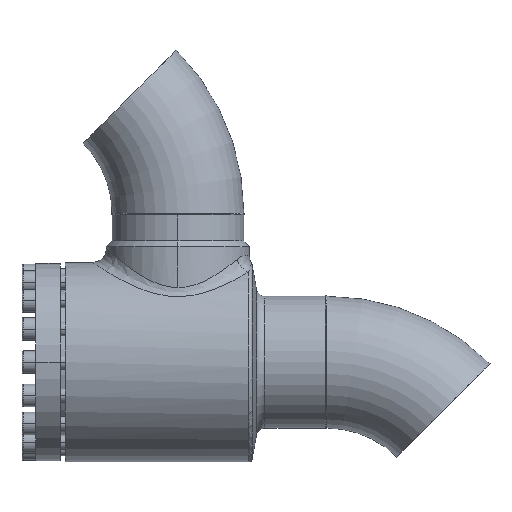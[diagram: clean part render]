
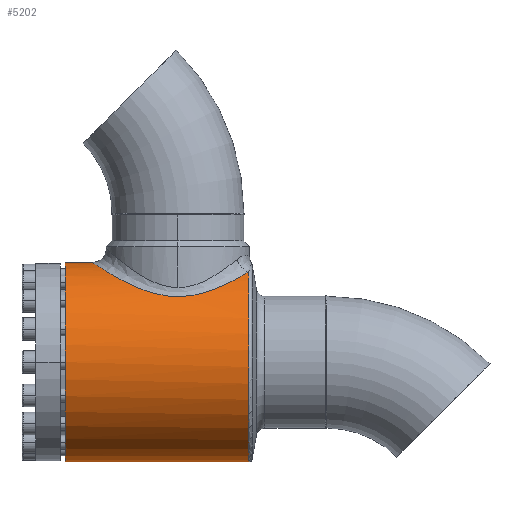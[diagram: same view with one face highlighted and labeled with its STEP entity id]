
A CAD part, left-side view. The second image highlights one B-rep face of the part: STEP entity #5202.
In plain terms, the highlighted cylindrical face has radius 57.5 mm (diameter 115 mm), a partial arc.
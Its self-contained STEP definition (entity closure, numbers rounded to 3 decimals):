
#64 = LINE ( 'NONE', #65, #66 ) ;
#65 = CARTESIAN_POINT ( 'NONE',  ( 0., -111., 57.5 ) ) ;
#66 = VECTOR ( 'NONE', #70, 1000. ) ;
#70 = DIRECTION ( 'NONE',  ( 0., 1., 0. ) ) ;
#442 = CARTESIAN_POINT ( 'NONE',  ( 0., -15.7, 57.5 ) ) ;
#767 = B_SPLINE_CURVE_WITH_KNOTS ( 'NONE', 3,
 ( #768, #769, #770, #771, #772, #773, #774, #775, #776, #777, #778, #779, #780, #781, #782, #783, #784, #785, #786, #787, #788, #789, #790, #791, #793, #794, #795, #796, #797, #798, #799, #800, #801, #802, #803, #804, #805, #806, #807, #808, #809, #810, #811, #812, #813, #814, #815, #816, #817, #818, #819, #820, #821, #822, #823, #824, #828, #829, #830, #831, #832, #833 ),
 .UNSPECIFIED., .F., .F.,
 ( 4, 2, 2, 2, 2, 2, 2, 2, 2, 2, 2, 2, 2, 2, 2, 2, 2, 2, 2, 2, 2, 2, 2, 2, 2, 2, 2, 2, 2, 2, 4 ),
 ( 0., 0.008, 0.016, 0.017, 0.019, 0.023, 0.031, 0.035, 0.039, 0.047, 0.049, 0.05, 0.054, 0.058, 0.06, 0.062, 0.07, 0.074, 0.078, 0.085, 0.089, 0.091, 0.093, 0.101, 0.105, 0.107, 0.109, 0.116, 0.118, 0.12, 0.124 ),
 .UNSPECIFIED. ) ;
#768 = CARTESIAN_POINT ( 'NONE',  ( -24.174, -105.892, 52.171 ) ) ;
#769 = CARTESIAN_POINT ( 'NONE',  ( -26.132, -104.39, 51.264 ) ) ;
#770 = CARTESIAN_POINT ( 'NONE',  ( -27.915, -102.76, 50.305 ) ) ;
#771 = CARTESIAN_POINT ( 'NONE',  ( -31.195, -99.268, 48.34 ) ) ;
#772 = CARTESIAN_POINT ( 'NONE',  ( -32.691, -97.405, 47.333 ) ) ;
#773 = CARTESIAN_POINT ( 'NONE',  ( -34.397, -94.927, 46.079 ) ) ;
#774 = CARTESIAN_POINT ( 'NONE',  ( -34.73, -94.424, 45.829 ) ) ;
#775 = CARTESIAN_POINT ( 'NONE',  ( -35.379, -93.402, 45.329 ) ) ;
#776 = CARTESIAN_POINT ( 'NONE',  ( -35.695, -92.884, 45.08 ) ) ;
#777 = CARTESIAN_POINT ( 'NONE',  ( -36.613, -91.317, 44.344 ) ) ;
#778 = CARTESIAN_POINT ( 'NONE',  ( -37.186, -90.253, 43.863 ) ) ;
#779 = CARTESIAN_POINT ( 'NONE',  ( -38.793, -86.998, 42.466 ) ) ;
#780 = CARTESIAN_POINT ( 'NONE',  ( -39.716, -84.747, 41.594 ) ) ;
#781 = CARTESIAN_POINT ( 'NONE',  ( -40.882, -81.225, 40.437 ) ) ;
#782 = CARTESIAN_POINT ( 'NONE',  ( -41.234, -80.027, 40.077 ) ) ;
#783 = CARTESIAN_POINT ( 'NONE',  ( -41.862, -77.576, 39.421 ) ) ;
#784 = CARTESIAN_POINT ( 'NONE',  ( -42.138, -76.319, 39.125 ) ) ;
#785 = CARTESIAN_POINT ( 'NONE',  ( -42.831, -72.529, 38.37 ) ) ;
#786 = CARTESIAN_POINT ( 'NONE',  ( -43.12, -69.961, 38.038 ) ) ;
#787 = CARTESIAN_POINT ( 'NONE',  ( -43.257, -66.692, 37.883 ) ) ;
#788 = CARTESIAN_POINT ( 'NONE',  ( -43.273, -66.034, 37.864 ) ) ;
#789 = CARTESIAN_POINT ( 'NONE',  ( -43.282, -64.718, 37.854 ) ) ;
#790 = CARTESIAN_POINT ( 'NONE',  ( -43.275, -64.063, 37.862 ) ) ;
#791 = CARTESIAN_POINT ( 'NONE',  ( -43.219, -62.103, 37.926 ) ) ;
#793 = CARTESIAN_POINT ( 'NONE',  ( -43.137, -60.806, 38.02 ) ) ;
#794 = CARTESIAN_POINT ( 'NONE',  ( -42.884, -58.229, 38.305 ) ) ;
#795 = CARTESIAN_POINT ( 'NONE',  ( -42.713, -56.95, 38.496 ) ) ;
#796 = CARTESIAN_POINT ( 'NONE',  ( -42.391, -55.043, 38.85 ) ) ;
#797 = CARTESIAN_POINT ( 'NONE',  ( -42.272, -54.408, 38.979 ) ) ;
#798 = CARTESIAN_POINT ( 'NONE',  ( -42.014, -53.15, 39.257 ) ) ;
#799 = CARTESIAN_POINT ( 'NONE',  ( -41.875, -52.528, 39.406 ) ) ;
#800 = CARTESIAN_POINT ( 'NONE',  ( -41.13, -49.446, 40.191 ) ) ;
#801 = CARTESIAN_POINT ( 'NONE',  ( -40.378, -47.077, 40.957 ) ) ;
#802 = CARTESIAN_POINT ( 'NONE',  ( -39.022, -43.642, 42.237 ) ) ;
#803 = CARTESIAN_POINT ( 'NONE',  ( -38.532, -42.517, 42.685 ) ) ;
#804 = CARTESIAN_POINT ( 'NONE',  ( -37.473, -40.304, 43.618 ) ) ;
#805 = CARTESIAN_POINT ( 'NONE',  ( -36.908, -39.223, 44.098 ) ) ;
#806 = CARTESIAN_POINT ( 'NONE',  ( -35.115, -36.073, 45.559 ) ) ;
#807 = CARTESIAN_POINT ( 'NONE',  ( -33.785, -34.085, 46.562 ) ) ;
#808 = CARTESIAN_POINT ( 'NONE',  ( -31.574, -31.259, 48.064 ) ) ;
#809 = CARTESIAN_POINT ( 'NONE',  ( -30.801, -30.343, 48.564 ) ) ;
#810 = CARTESIAN_POINT ( 'NONE',  ( -29.582, -29.009, 49.309 ) ) ;
#811 = CARTESIAN_POINT ( 'NONE',  ( -29.166, -28.57, 49.557 ) ) ;
#812 = CARTESIAN_POINT ( 'NONE',  ( -28.313, -27.708, 50.049 ) ) ;
#813 = CARTESIAN_POINT ( 'NONE',  ( -27.875, -27.282, 50.294 ) ) ;
#814 = CARTESIAN_POINT ( 'NONE',  ( -25.646, -25.201, 51.504 ) ) ;
#815 = CARTESIAN_POINT ( 'NONE',  ( -23.737, -23.688, 52.419 ) ) ;
#816 = CARTESIAN_POINT ( 'NONE',  ( -20.66, -21.659, 53.671 ) ) ;
#817 = CARTESIAN_POINT ( 'NONE',  ( -19.599, -21.023, 54.069 ) ) ;
#818 = CARTESIAN_POINT ( 'NONE',  ( -17.948, -20.134, 54.63 ) ) ;
#819 = CARTESIAN_POINT ( 'NONE',  ( -17.388, -19.848, 54.811 ) ) ;
#820 = CARTESIAN_POINT ( 'NONE',  ( -16.247, -19.3, 55.16 ) ) ;
#821 = CARTESIAN_POINT ( 'NONE',  ( -15.665, -19.037, 55.328 ) ) ;
#822 = CARTESIAN_POINT ( 'NONE',  ( -12.734, -17.796, 56.125 ) ) ;
#823 = CARTESIAN_POINT ( 'NONE',  ( -10.302, -17.028, 56.627 ) ) ;
#824 = CARTESIAN_POINT ( 'NONE',  ( -7.142, -16.371, 57.058 ) ) ;
#828 = CARTESIAN_POINT ( 'NONE',  ( -6.505, -16.254, 57.135 ) ) ;
#829 = CARTESIAN_POINT ( 'NONE',  ( -5.216, -16.054, 57.267 ) ) ;
#830 = CARTESIAN_POINT ( 'NONE',  ( -4.563, -15.969, 57.322 ) ) ;
#831 = CARTESIAN_POINT ( 'NONE',  ( -2.602, -15.766, 57.456 ) ) ;
#832 = CARTESIAN_POINT ( 'NONE',  ( -1.298, -15.7, 57.5 ) ) ;
#833 = CARTESIAN_POINT ( 'NONE',  ( 0., -15.7, 57.5 ) ) ;
#948 = CARTESIAN_POINT ( 'NONE',  ( 0., 0., 57.5 ) ) ;
#1820 = ORIENTED_EDGE ( 'NONE', *, *, #10167, .F. ) ;
#2145 = ORIENTED_EDGE ( 'NONE', *, *, #6253, .T. ) ;
#2622 = EDGE_CURVE ( 'NONE', #3458, #11046, #767, .T. ) ;
#2974 = ORIENTED_EDGE ( 'NONE', *, *, #2622, .T. ) ;
#3458 = VERTEX_POINT ( 'NONE', #10093 ) ;
#3663 = EDGE_CURVE ( 'NONE', #9745, #3458, #10401, .T. ) ;
#4011 = ORIENTED_EDGE ( 'NONE', *, *, #3663, .T. ) ;
#4490 = ORIENTED_EDGE ( 'NONE', *, *, #8785, .F. ) ;
#4973 = EDGE_LOOP ( 'NONE', ( #4490, #4011, #2974, #2145, #1820 ) ) ;
#5202 = ADVANCED_FACE ( 'NONE', ( #12295 ), #12296, .T. ) ;
#6253 = EDGE_CURVE ( 'NONE', #11046, #7247, #64, .T. ) ;
#7247 = VERTEX_POINT ( 'NONE', #948 ) ;
#8576 = VERTEX_POINT ( 'NONE', #10799 ) ;
#8785 = EDGE_CURVE ( 'NONE', #9745, #8576, #10939, .T. ) ;
#9745 = VERTEX_POINT ( 'NONE', #12443 ) ;
#10093 = CARTESIAN_POINT ( 'NONE',  ( -24.174, -105.892, 52.171 ) ) ;
#10167 = EDGE_CURVE ( 'NONE', #8576, #7247, #15102, .T. ) ;
#10401 = CIRCLE ( 'NONE', #10402, 57.5 ) ;
#10402 = AXIS2_PLACEMENT_3D ( 'NONE', #10403, #10404, #10405 ) ;
#10403 = CARTESIAN_POINT ( 'NONE',  ( 0., -105.892, 0. ) ) ;
#10404 = DIRECTION ( 'NONE',  ( 0., 1., 0. ) ) ;
#10405 = DIRECTION ( 'NONE',  ( 0., 0., -1. ) ) ;
#10799 = CARTESIAN_POINT ( 'NONE',  ( 0., 0., -57.5 ) ) ;
#10939 = LINE ( 'NONE', #10940, #10941 ) ;
#10940 = CARTESIAN_POINT ( 'NONE',  ( 0., -111., -57.5 ) ) ;
#10941 = VECTOR ( 'NONE', #10942, 1000. ) ;
#10942 = DIRECTION ( 'NONE',  ( 0., 1., 0. ) ) ;
#11046 = VERTEX_POINT ( 'NONE', #442 ) ;
#12295 = FACE_OUTER_BOUND ( 'NONE', #4973, .T. ) ;
#12296 = CYLINDRICAL_SURFACE ( 'NONE', #12297, 57.5 ) ;
#12297 = AXIS2_PLACEMENT_3D ( 'NONE', #12298, #12299, #12300 ) ;
#12298 = CARTESIAN_POINT ( 'NONE',  ( 0., -111., 0. ) ) ;
#12299 = DIRECTION ( 'NONE',  ( 0., 1., 0. ) ) ;
#12300 = DIRECTION ( 'NONE',  ( 0., 0., 1. ) ) ;
#12443 = CARTESIAN_POINT ( 'NONE',  ( 0., -105.892, -57.5 ) ) ;
#15102 = CIRCLE ( 'NONE', #15103, 57.5 ) ;
#15103 = AXIS2_PLACEMENT_3D ( 'NONE', #15104, #15105, #15106 ) ;
#15104 = CARTESIAN_POINT ( 'NONE',  ( 0., 0., 0. ) ) ;
#15105 = DIRECTION ( 'NONE',  ( 0., 1., 0. ) ) ;
#15106 = DIRECTION ( 'NONE',  ( 0., 0., 1. ) ) ;
